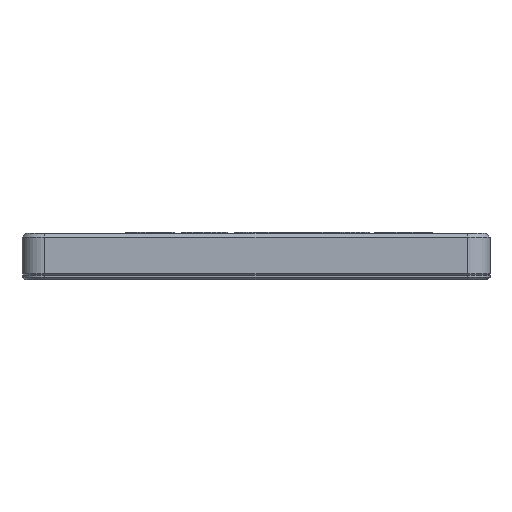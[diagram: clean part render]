
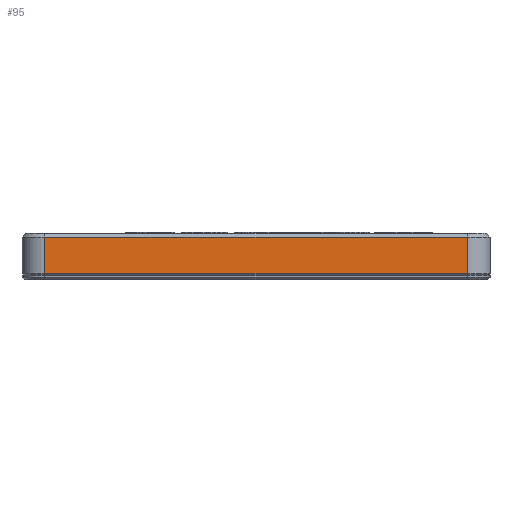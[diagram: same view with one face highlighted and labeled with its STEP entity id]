
A CAD part, left-side view. The second image highlights one B-rep face of the part: STEP entity #95.
In plain terms, the highlighted planar face has unit normal (-1, 0, 0).
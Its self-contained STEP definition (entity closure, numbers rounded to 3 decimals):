
#95 = ADVANCED_FACE('',(#96),#110,.T.);
#96 = FACE_BOUND('',#97,.T.);
#97 = EDGE_LOOP('',(#98,#133,#161,#189));
#98 = ORIENTED_EDGE('',*,*,#99,.T.);
#99 = EDGE_CURVE('',#100,#102,#104,.T.);
#100 = VERTEX_POINT('',#101);
#101 = CARTESIAN_POINT('',(-30.,-46.,1.3));
#102 = VERTEX_POINT('',#103);
#103 = CARTESIAN_POINT('',(-30.,-46.,9.3));
#104 = SURFACE_CURVE('',#105,(#109,#121),.PCURVE_S1.);
#105 = LINE('',#106,#107);
#106 = CARTESIAN_POINT('',(-30.,-46.,1.));
#107 = VECTOR('',#108,1.);
#108 = DIRECTION('',(0.,0.,1.));
#109 = PCURVE('',#110,#115);
#110 = PLANE('',#111);
#111 = AXIS2_PLACEMENT_3D('',#112,#113,#114);
#112 = CARTESIAN_POINT('',(-30.,-46.,1.));
#113 = DIRECTION('',(-1.,0.,0.));
#114 = DIRECTION('',(0.,1.,0.));
#115 = DEFINITIONAL_REPRESENTATION('',(#116),#120);
#116 = LINE('',#117,#118);
#117 = CARTESIAN_POINT('',(0.,0.));
#118 = VECTOR('',#119,1.);
#119 = DIRECTION('',(0.,-1.));
#120 = ( GEOMETRIC_REPRESENTATION_CONTEXT(2) 
PARAMETRIC_REPRESENTATION_CONTEXT() REPRESENTATION_CONTEXT('2D SPACE',''
  ) );
#121 = PCURVE('',#122,#127);
#122 = CYLINDRICAL_SURFACE('',#123,5.);
#123 = AXIS2_PLACEMENT_3D('',#124,#125,#126);
#124 = CARTESIAN_POINT('',(-25.,-46.,1.));
#125 = DIRECTION('',(0.,0.,-1.));
#126 = DIRECTION('',(-1.,0.,0.));
#127 = DEFINITIONAL_REPRESENTATION('',(#128),#132);
#128 = LINE('',#129,#130);
#129 = CARTESIAN_POINT('',(6.283,0.));
#130 = VECTOR('',#131,1.);
#131 = DIRECTION('',(0.,-1.));
#132 = ( GEOMETRIC_REPRESENTATION_CONTEXT(2) 
PARAMETRIC_REPRESENTATION_CONTEXT() REPRESENTATION_CONTEXT('2D SPACE',''
  ) );
#133 = ORIENTED_EDGE('',*,*,#134,.T.);
#134 = EDGE_CURVE('',#102,#135,#137,.T.);
#135 = VERTEX_POINT('',#136);
#136 = CARTESIAN_POINT('',(-30.,46.,9.3));
#137 = SURFACE_CURVE('',#138,(#142,#149),.PCURVE_S1.);
#138 = LINE('',#139,#140);
#139 = CARTESIAN_POINT('',(-30.,-46.,9.3));
#140 = VECTOR('',#141,1.);
#141 = DIRECTION('',(0.,1.,0.));
#142 = PCURVE('',#110,#143);
#143 = DEFINITIONAL_REPRESENTATION('',(#144),#148);
#144 = LINE('',#145,#146);
#145 = CARTESIAN_POINT('',(0.,-8.3));
#146 = VECTOR('',#147,1.);
#147 = DIRECTION('',(1.,0.));
#148 = ( GEOMETRIC_REPRESENTATION_CONTEXT(2) 
PARAMETRIC_REPRESENTATION_CONTEXT() REPRESENTATION_CONTEXT('2D SPACE',''
  ) );
#149 = PCURVE('',#150,#155);
#150 = PLANE('',#151);
#151 = AXIS2_PLACEMENT_3D('',#152,#153,#154);
#152 = CARTESIAN_POINT('',(-29.6,-46.,9.7));
#153 = DIRECTION('',(-0.707,0.,0.707)
  );
#154 = DIRECTION('',(0.,-1.,0.));
#155 = DEFINITIONAL_REPRESENTATION('',(#156),#160);
#156 = LINE('',#157,#158);
#157 = CARTESIAN_POINT('',(-0.,-0.566));
#158 = VECTOR('',#159,1.);
#159 = DIRECTION('',(-1.,0.));
#160 = ( GEOMETRIC_REPRESENTATION_CONTEXT(2) 
PARAMETRIC_REPRESENTATION_CONTEXT() REPRESENTATION_CONTEXT('2D SPACE',''
  ) );
#161 = ORIENTED_EDGE('',*,*,#162,.F.);
#162 = EDGE_CURVE('',#163,#135,#165,.T.);
#163 = VERTEX_POINT('',#164);
#164 = CARTESIAN_POINT('',(-30.,46.,1.3));
#165 = SURFACE_CURVE('',#166,(#170,#177),.PCURVE_S1.);
#166 = LINE('',#167,#168);
#167 = CARTESIAN_POINT('',(-30.,46.,1.));
#168 = VECTOR('',#169,1.);
#169 = DIRECTION('',(0.,0.,1.));
#170 = PCURVE('',#110,#171);
#171 = DEFINITIONAL_REPRESENTATION('',(#172),#176);
#172 = LINE('',#173,#174);
#173 = CARTESIAN_POINT('',(92.,0.));
#174 = VECTOR('',#175,1.);
#175 = DIRECTION('',(0.,-1.));
#176 = ( GEOMETRIC_REPRESENTATION_CONTEXT(2) 
PARAMETRIC_REPRESENTATION_CONTEXT() REPRESENTATION_CONTEXT('2D SPACE',''
  ) );
#177 = PCURVE('',#178,#183);
#178 = CYLINDRICAL_SURFACE('',#179,5.);
#179 = AXIS2_PLACEMENT_3D('',#180,#181,#182);
#180 = CARTESIAN_POINT('',(-25.,46.,1.));
#181 = DIRECTION('',(0.,0.,-1.));
#182 = DIRECTION('',(-1.,0.,0.));
#183 = DEFINITIONAL_REPRESENTATION('',(#184),#188);
#184 = LINE('',#185,#186);
#185 = CARTESIAN_POINT('',(0.,0.));
#186 = VECTOR('',#187,1.);
#187 = DIRECTION('',(0.,-1.));
#188 = ( GEOMETRIC_REPRESENTATION_CONTEXT(2) 
PARAMETRIC_REPRESENTATION_CONTEXT() REPRESENTATION_CONTEXT('2D SPACE',''
  ) );
#189 = ORIENTED_EDGE('',*,*,#190,.F.);
#190 = EDGE_CURVE('',#100,#163,#191,.T.);
#191 = SURFACE_CURVE('',#192,(#196,#203),.PCURVE_S1.);
#192 = LINE('',#193,#194);
#193 = CARTESIAN_POINT('',(-30.,-46.,1.3));
#194 = VECTOR('',#195,1.);
#195 = DIRECTION('',(0.,1.,0.));
#196 = PCURVE('',#110,#197);
#197 = DEFINITIONAL_REPRESENTATION('',(#198),#202);
#198 = LINE('',#199,#200);
#199 = CARTESIAN_POINT('',(0.,-0.3));
#200 = VECTOR('',#201,1.);
#201 = DIRECTION('',(1.,0.));
#202 = ( GEOMETRIC_REPRESENTATION_CONTEXT(2) 
PARAMETRIC_REPRESENTATION_CONTEXT() REPRESENTATION_CONTEXT('2D SPACE',''
  ) );
#203 = PCURVE('',#204,#209);
#204 = PLANE('',#205);
#205 = AXIS2_PLACEMENT_3D('',#206,#207,#208);
#206 = CARTESIAN_POINT('',(-29.85,-46.,1.15));
#207 = DIRECTION('',(0.707,0.,0.707)
  );
#208 = DIRECTION('',(0.,-1.,0.));
#209 = DEFINITIONAL_REPRESENTATION('',(#210),#214);
#210 = LINE('',#211,#212);
#211 = CARTESIAN_POINT('',(-0.,-0.212));
#212 = VECTOR('',#213,1.);
#213 = DIRECTION('',(-1.,0.));
#214 = ( GEOMETRIC_REPRESENTATION_CONTEXT(2) 
PARAMETRIC_REPRESENTATION_CONTEXT() REPRESENTATION_CONTEXT('2D SPACE',''
  ) );
